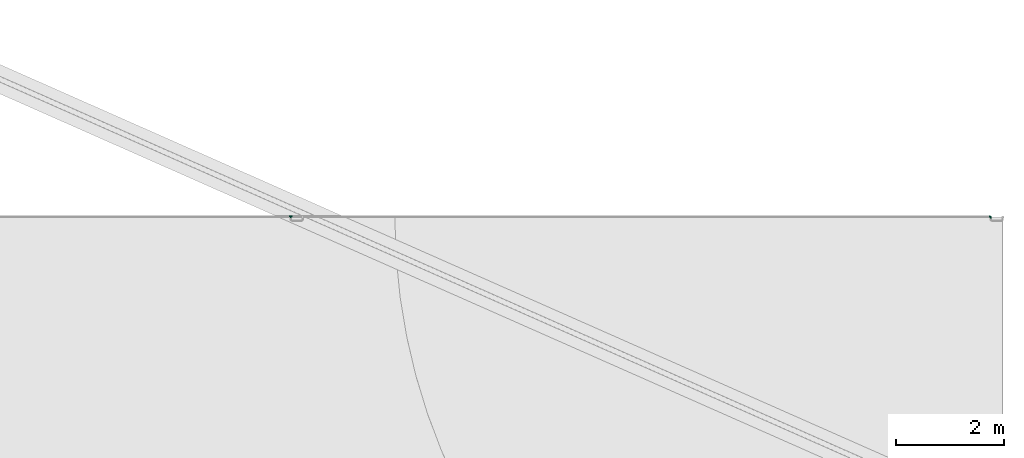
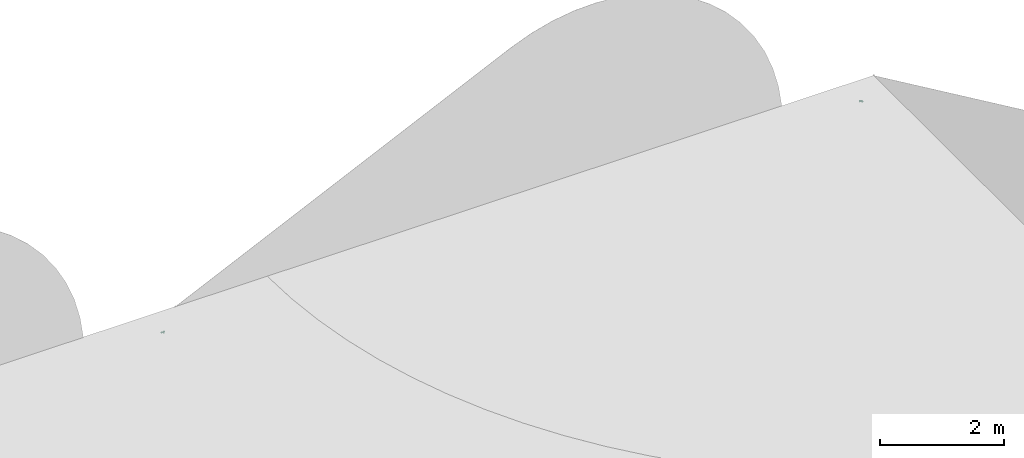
# One storey, part 162 of 166: 2 flow fittings.
"""IFC2X3 building model written with IfcOpenShell, lengths in metres."""

from ifc_helpers import new_model, entity, si_unit, converted_unit, direction, frame, origin, place, context, subcontext, project, spatial, faceted_brep, source, transform, mapped, material, type_object, type_shapes, element, save


model = new_model("IFC2X3")

# Units and contexts
model_context = context("Model", 3, precision=1e-05, world=origin(), true_north=direction((6.123233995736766e-17, 1.0)))
body_context = subcontext(model_context, "Body", "Model", "MODEL_VIEW")
ifc_project = project(units=[si_unit("LENGTHUNIT", "METRE"), converted_unit("PLANEANGLEUNIT", "DEGREE", entity("IfcPlaneAngleMeasure", 0.017453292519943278), si_unit("PLANEANGLEUNIT", "RADIAN"), dimensions=[0, 0, 0, 0, 0, 0, 0]), si_unit("AREAUNIT", "SQUARE_METRE")], contexts=[model_context])

# Site, building, storey
site_placement = place(None, origin())
site = spatial("IfcSite", under=ifc_project, at=site_placement, Name="Default", CompositionType="ELEMENT")
building_placement = place(site_placement, origin())
building = spatial("IfcBuilding", under=site, at=building_placement, Name="CASA DE ACOLHIDA PARA IDOSOS", CompositionType="ELEMENT")
storey_placement = place(building_placement, frame((0.0, 0.0, -1.7499999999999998)))
storey = spatial("IfcBuildingStorey", under=building, at=storey_placement, Name="IMPLANTAÇÃO DRENAGEM", CompositionType="ELEMENT", Elevation=-1.7499999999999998)

# Flow fittings
ifc_material = material(Name="PVC Branco")
pipe_fitting_type_1 = type_object("IfcPipeFittingType", Name="AF_Roscavel_Te_Reducao:Standard", PredefinedType="NOTDEFINED", material=ifc_material)
shared_shape_1 = source(origin(), body_context, "Body", "Brep", [
    faceted_brep([(-0.009400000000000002, 0.014040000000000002, 0.0), (-0.010499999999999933, 0.011611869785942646, -0.0063642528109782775), (-0.010500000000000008, 0.012355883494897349, -0.005006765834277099), (-0.010499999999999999, 0.0150999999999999, 0.0), (-0.009399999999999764, 0.008784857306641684, -0.006794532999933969), (-0.010499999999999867, 0.008123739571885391, -0.012728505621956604), (-0.009949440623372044, -0.009949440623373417, -0.010643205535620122), (-0.009399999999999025, -0.0019155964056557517, -0.012258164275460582), (-0.009399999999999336, -0.003706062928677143, -0.011820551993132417), (-0.009399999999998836, -0.006553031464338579, -0.011124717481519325), (-0.009399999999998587, -0.007976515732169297, -0.010776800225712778), (-0.009399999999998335, -0.009400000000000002, -0.010428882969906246), (-0.010499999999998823, -0.0025360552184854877, -0.011654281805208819), (-0.009399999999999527, 0.003529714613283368, -0.01358906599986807), (-0.010499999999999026, -0.0011881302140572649, -0.01179011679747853), (-0.01049999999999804, -0.010500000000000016, -0.010851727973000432), (-0.009949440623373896, -0.009949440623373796, 0.01064320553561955), (-0.009400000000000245, -0.009400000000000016, 0.010428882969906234), (-0.009400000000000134, -0.00657052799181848, 0.010641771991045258), (-0.009400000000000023, -0.0037410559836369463, 0.010854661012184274), (-0.00940000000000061, -0.0008331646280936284, 0.011073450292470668), (-0.009400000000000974, 0.007733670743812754, 0.011718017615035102), (-0.010500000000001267, 0.009299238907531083, 0.007344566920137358), (-0.010500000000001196, 0.003498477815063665, 0.014689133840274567), (-0.00940000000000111, 0.01088683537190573, 0.00585900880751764), (-0.010500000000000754, -0.002518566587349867, 0.013039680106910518), (-0.0105000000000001, -0.003500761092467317, 0.012770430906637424), (-0.010500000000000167, -0.010500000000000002, 0.01085172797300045), (-0.009399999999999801, 0.0019178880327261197, 0.011280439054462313), (-0.003273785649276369, -0.003273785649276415, 0.013652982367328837), (-0.0071620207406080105, -0.0071620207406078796, 0.011606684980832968), (0.00940000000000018, 0.0019178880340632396, 0.011280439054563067), (0.009400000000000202, 0.007733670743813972, 0.011718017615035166), (0.0, 0.0, 0.014039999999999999), (0.009400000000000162, -0.003741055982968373, 0.010854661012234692), (0.009400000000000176, -0.0008331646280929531, 0.011073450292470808), (0.006450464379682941, -0.006450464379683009, 0.012470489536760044), (0.00833239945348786, -0.008332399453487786, 0.01116785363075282), (0.009400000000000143, -0.009399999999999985, 0.010428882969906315), (0.009400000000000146, -0.00798526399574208, 0.010535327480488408), (0.009400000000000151, -0.006570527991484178, 0.010641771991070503), (0.009400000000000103, 0.01088683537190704, 0.005859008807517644), (0.009400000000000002, 0.014039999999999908, 0.0), (0.009399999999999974, 0.008784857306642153, -0.006794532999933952), (0.009399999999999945, 0.003529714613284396, -0.013589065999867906), (0.0, 0.0, -0.014039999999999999), (-0.006450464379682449, -0.006450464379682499, -0.012470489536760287), (-0.008332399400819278, -0.008332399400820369, -0.011167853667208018), (0.009400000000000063, -0.006553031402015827, -0.011124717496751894), (0.009400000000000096, -0.009399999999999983, -0.010428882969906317), (0.0071620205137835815, -0.0071620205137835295, -0.011606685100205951), (0.0032737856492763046, -0.0032737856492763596, -0.013652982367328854), (0.009400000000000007, -0.0019155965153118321, -0.012258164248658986), (0.009400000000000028, -0.0037060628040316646, -0.01182055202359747), (0.010499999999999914, 0.008123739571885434, 0.012728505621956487), (0.010499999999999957, 0.011611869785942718, 0.006364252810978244), (0.010500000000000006, -0.002536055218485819, 0.01165428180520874), (0.010499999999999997, -0.001188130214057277, 0.011790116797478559), (0.010499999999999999, 0.0151, 0.0), (0.009949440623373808, -0.00994944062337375, 0.010643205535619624), (0.010499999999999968, 0.012355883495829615, 0.005006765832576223), (0.010500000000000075, -0.01049999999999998, 0.010851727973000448), (0.010500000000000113, -0.002518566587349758, -0.013039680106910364), (0.00994944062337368, -0.009949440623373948, -0.010643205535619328), (0.010500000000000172, 0.0034984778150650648, -0.014689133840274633), (0.010500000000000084, 0.009299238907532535, -0.007344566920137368), (0.010500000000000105, -0.0035007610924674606, -0.012770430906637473), (0.010500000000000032, -0.010499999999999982, -0.010851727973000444), (-0.032, -0.007550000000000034, -0.013076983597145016), (-0.032, -0.0125, 0.0), (-0.032, -0.006250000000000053, -0.010825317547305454), (-0.032, -0.011325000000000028, -0.00653849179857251), (-0.032, 0.0062499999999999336, -0.010825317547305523), (-0.032, 0.0, -0.013076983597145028), (-0.032, -0.015100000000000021, 0.0), (-0.032, -0.006250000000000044, 0.010825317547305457), (-0.032, -0.011324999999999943, 0.006538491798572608), (-0.032, -0.00754999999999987, 0.01307698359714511), (-0.032, 0.006249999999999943, 0.010825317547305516), (-0.032, 0.0, 0.013076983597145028), (-0.032, 0.007550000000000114, 0.013076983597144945), (-0.032, 0.012256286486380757, 0.004925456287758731), (-0.032, 0.015099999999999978, 0.0), (-0.032, 0.0125, 0.0), (-0.032, 0.011324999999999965, -0.006538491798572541), (-0.032, 0.0075499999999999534, -0.01307698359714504), (-0.013760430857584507, -0.013760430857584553, 0.006217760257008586), (-0.015099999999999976, -0.015100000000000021, 0.0), (0.032000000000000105, -0.01132500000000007, 0.0065384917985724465), (0.015100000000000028, -0.0151, 0.0), (0.032000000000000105, -0.0151, 0.0), (-0.013760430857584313, -0.013760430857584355, -0.006217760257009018), (0.032000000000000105, -0.011324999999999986, -0.0065384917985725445), (0.032000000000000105, 0.007550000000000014, -0.013076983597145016), (0.032000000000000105, 0.0125, 0.0), (0.032000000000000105, 0.006250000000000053, -0.010825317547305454), (0.032000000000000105, 0.012256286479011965, -0.004925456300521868), (0.032000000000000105, -0.0062499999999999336, -0.010825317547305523), (0.032000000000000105, 0.0, -0.013076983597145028), (0.032000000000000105, 0.0151, 0.0), (0.032000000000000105, 0.006250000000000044, 0.010825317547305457), (0.032000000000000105, 0.011324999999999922, 0.006538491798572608), (0.032000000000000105, 0.00754999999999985, 0.01307698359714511), (0.032000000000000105, -0.006249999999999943, 0.010825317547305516), (0.032000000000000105, 0.0, 0.013076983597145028), (0.032000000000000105, -0.007550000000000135, 0.013076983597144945), (0.032000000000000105, -0.0125, 0.0), (0.032000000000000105, -0.007549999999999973, -0.01307698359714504), (0.013760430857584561, -0.013760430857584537, 0.00621776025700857), (0.013760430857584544, -0.013760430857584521, -0.006217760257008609), (-0.01589999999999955, -0.0125, 0.0), (-0.01589999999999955, -0.006250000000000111, 0.010825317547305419), (-0.01589999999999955, 0.006249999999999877, 0.010825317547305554), (-0.01589999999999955, 0.0125, 0.0), (-0.01589999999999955, 0.006250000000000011, -0.010825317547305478), (-0.01589999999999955, -0.0062499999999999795, -0.010825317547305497), (0.01590000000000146, -0.012499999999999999, 0.0), (0.015900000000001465, -0.006249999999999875, 0.010825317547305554), (0.015900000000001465, 0.006250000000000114, 0.010825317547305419), (0.006250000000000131, -0.031999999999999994, 0.010825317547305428), (-0.006249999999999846, -0.03200000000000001, 0.01082531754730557), (-0.006249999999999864, -0.015900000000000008, 0.010825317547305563), (0.006250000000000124, -0.015900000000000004, 0.010825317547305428), (0.015900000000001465, 0.012500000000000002, 0.0), (0.015900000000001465, 0.006249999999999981, -0.010825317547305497), (0.015900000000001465, -0.006250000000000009, -0.010825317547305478), (-0.0062499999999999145, -0.03200000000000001, -0.010825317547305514), (0.006250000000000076, -0.031999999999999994, -0.010825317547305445), (0.006249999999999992, -0.015900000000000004, -0.01082531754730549), (-0.006249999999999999, -0.015900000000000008, -0.010825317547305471), (0.012500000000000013, -0.0159, 0.0), (-0.012499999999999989, -0.01590000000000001, 0.0), (0.012500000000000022, -0.03199999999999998, 0.0), (-0.01249999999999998, -0.03200000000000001, 0.0), (-0.005668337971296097, -0.00940000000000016, -0.01186229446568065), (9.767713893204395e-07, -0.009400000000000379, -0.014039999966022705), (0.005668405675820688, -0.009399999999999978, 0.011862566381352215), (9.767713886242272e-07, -0.00939999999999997, 0.014039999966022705), (0.0016561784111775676, -0.010500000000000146, 0.015008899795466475), (-0.0025917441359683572, -0.010500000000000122, 0.01355619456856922), (-0.001654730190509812, -0.010499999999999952, -0.015009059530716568), (0.0025918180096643, -0.010500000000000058, -0.013556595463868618), (0.007550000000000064, -0.03199999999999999, -0.013076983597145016), (0.011325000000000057, -0.03199999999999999, -0.00653849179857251), (0.0, -0.032, -0.013076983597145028), (0.015100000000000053, -0.03199999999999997, 0.0), (0.011324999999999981, -0.03199999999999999, 0.006538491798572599), (0.007549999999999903, -0.03199999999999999, 0.01307698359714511), (0.0, -0.032, 0.013076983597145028), (-0.007550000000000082, -0.032000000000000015, 0.013076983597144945), (-0.011325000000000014, -0.03200000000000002, 0.006538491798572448), (-0.015099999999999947, -0.03200000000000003, 0.0), (-0.011324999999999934, -0.03200000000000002, -0.006538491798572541), (-0.0075499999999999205, -0.032000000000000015, -0.01307698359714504)], [[[0, 1, 2, 3]], [[4, 5, 1]], [[6, 7, 8, 9, 10, 11]], [[12, 7, 6]], [[13, 12, 14, 5]], [[13, 7, 12]], [[0, 4, 1]], [[5, 4, 13]], [[6, 15, 12]], [[16, 17, 18, 19, 20]], [[21, 22, 23]], [[3, 24, 0]], [[3, 22, 24]], [[25, 20, 23]], [[22, 21, 24]], [[16, 25, 26, 27]], [[20, 25, 16]], [[23, 20, 28, 21]], [[29, 28, 20, 19, 18, 17, 30]], [[31, 32, 33, 34, 35]], [[33, 28, 29]], [[36, 37, 38, 39, 40, 34]], [[21, 32, 41, 42, 0, 24]], [[32, 21, 33]], [[21, 28, 33]], [[36, 34, 33]], [[43, 44, 45]], [[45, 13, 4]], [[9, 8, 46, 47, 11, 10]], [[43, 4, 0, 42]], [[48, 49, 50, 51, 44, 52, 53]], [[45, 8, 7, 13]], [[46, 8, 45]], [[51, 45, 44]], [[4, 43, 45]], [[32, 54, 55]], [[55, 41, 32]], [[35, 56, 57, 54]], [[42, 41, 58]], [[59, 35, 34, 40, 39, 38]], [[54, 32, 31, 35]], [[41, 55, 60, 58]], [[59, 56, 35]], [[59, 61, 56]], [[52, 62, 63]], [[44, 64, 52]], [[58, 43, 42]], [[58, 65, 43]], [[63, 49, 48, 53, 52]], [[65, 44, 43]], [[63, 62, 66, 67]], [[44, 65, 64]], [[62, 52, 64]], [[68, 69, 70]], [[69, 68, 71]], [[68, 70, 72]], [[72, 73, 68]], [[69, 71, 74]], [[75, 69, 74]], [[75, 74, 76]], [[75, 76, 77]], [[75, 77, 78]], [[78, 77, 79]], [[78, 79, 80]], [[78, 80, 81]], [[78, 81, 82]], [[82, 83, 78]], [[83, 82, 84]], [[83, 84, 85]], [[85, 72, 83]], [[72, 85, 73]], [[22, 80, 23]], [[23, 80, 79]], [[81, 22, 3]], [[77, 27, 26]], [[80, 22, 81]], [[86, 76, 87]], [[3, 82, 81]], [[26, 79, 77]], [[86, 77, 76]], [[74, 87, 76]], [[88, 89, 90]], [[79, 26, 25, 23]], [[86, 27, 77]], [[82, 3, 2]], [[91, 71, 68]], [[87, 71, 91]], [[15, 91, 68]], [[71, 87, 74]], [[90, 89, 92]], [[68, 14, 12, 15]], [[73, 85, 5]], [[5, 85, 84]], [[84, 82, 2]], [[73, 5, 14]], [[14, 68, 73]], [[84, 2, 1, 5]], [[93, 94, 95]], [[94, 93, 96]], [[93, 95, 97]], [[97, 98, 93]], [[94, 96, 99]], [[100, 94, 99]], [[100, 99, 101]], [[100, 101, 102]], [[100, 102, 103]], [[103, 102, 104]], [[103, 104, 105]], [[103, 105, 88]], [[103, 88, 90]], [[90, 106, 103]], [[106, 90, 92]], [[106, 92, 107]], [[107, 97, 106]], [[97, 107, 98]], [[99, 58, 60]], [[108, 88, 105]], [[89, 88, 108]], [[61, 108, 105]], [[105, 57, 56, 61]], [[104, 102, 54]], [[54, 102, 101]], [[101, 99, 60]], [[104, 54, 57]], [[57, 105, 104]], [[101, 60, 55, 54]], [[65, 93, 64]], [[64, 93, 98]], [[96, 65, 58]], [[107, 67, 66]], [[93, 65, 96]], [[109, 92, 89]], [[58, 99, 96]], [[66, 98, 107]], [[109, 107, 92]], [[98, 66, 62, 64]], [[109, 67, 107]], [[110, 111, 112, 113, 114, 115]], [[69, 75, 111, 110]], [[103, 106, 116, 117]], [[75, 78, 112, 111]], [[100, 103, 117, 118]], [[119, 120, 121, 122]], [[78, 83, 113, 112]], [[94, 100, 118, 123]], [[83, 72, 114, 113]], [[95, 94, 123, 124]], [[72, 70, 115, 114]], [[97, 95, 124, 125]], [[126, 127, 128, 129]], [[70, 69, 110, 115]], [[106, 97, 125, 116]], [[123, 118, 117, 116, 125, 124]], [[130, 122, 121, 131, 129, 128]], [[132, 119, 122, 130]], [[120, 133, 131, 121]], [[133, 126, 129, 131]], [[127, 132, 130, 128]], [[46, 45, 51]], [[134, 11, 47, 46, 135]], [[135, 51, 50, 49]], [[51, 135, 46]], [[136, 38, 37, 36, 137]], [[137, 36, 29]], [[137, 29, 30, 17]], [[33, 29, 36]], [[138, 59, 137]], [[16, 139, 137]], [[138, 61, 59]], [[59, 38, 136, 137]], [[17, 16, 137]], [[137, 139, 138]], [[16, 27, 139]], [[140, 6, 135]], [[63, 141, 135]], [[140, 15, 6]], [[6, 11, 134, 135]], [[49, 63, 135]], [[135, 141, 140]], [[63, 67, 141]], [[142, 132, 127]], [[132, 142, 143]], [[142, 127, 126]], [[126, 144, 142]], [[132, 143, 145]], [[119, 132, 145]], [[119, 145, 146]], [[119, 146, 147]], [[119, 147, 120]], [[120, 147, 148]], [[120, 148, 149]], [[120, 149, 150]], [[120, 150, 151]], [[151, 133, 120]], [[133, 151, 152]], [[133, 152, 153]], [[153, 126, 133]], [[126, 153, 144]], [[87, 151, 150]], [[87, 150, 86]], [[149, 86, 150]], [[86, 149, 27]], [[149, 138, 139, 27]], [[145, 89, 146]], [[89, 108, 146]], [[108, 147, 146]], [[138, 149, 148, 147]], [[138, 147, 61]], [[147, 108, 61]], [[89, 145, 143]], [[89, 143, 109]], [[142, 109, 143]], [[109, 142, 67]], [[142, 140, 141, 67]], [[151, 87, 152]], [[87, 91, 152]], [[91, 153, 152]], [[140, 142, 144, 153]], [[140, 153, 15]], [[153, 91, 15]]]),
])
type_shapes(pipe_fitting_type_1, [shared_shape_1])
flow_fitting_1_placement = place(storey_placement, frame((33.009051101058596, 49.25494207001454, -0.19999999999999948), z_axis=(0.0, 0.0, -1.0), x_axis=(-1.0, 0.0, 0.0)))
element("IfcFlowFitting", 1, at=flow_fitting_1_placement, inside=storey, type_object=pipe_fitting_type_1, material=ifc_material, Name="AF_Roscavel_Te_Reducao:Standard", ObjectType="AF_Roscavel_Te_Reducao:Standard", context=body_context, shape_type="MappedRepresentation", body=[
    mapped(shared_shape_1, transform((0.0, 0.0, 0.0), scale=1.0)),
])
pipe_fitting_type_2 = type_object("IfcPipeFittingType", Name="AF_Roscavel _Joelho 45_90:Standard", PredefinedType="NOTDEFINED", material=ifc_material)
shared_shape_2 = source(origin(), body_context, "Body", "Brep", [
    faceted_brep([(-0.01679999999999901, -0.012616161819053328, -0.010587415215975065), (-0.00016499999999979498, -0.01201266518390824, 0.0), (-0.01679999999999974, -0.016469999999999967, 0.0), (0.008619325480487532, 0.003305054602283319, -0.01130283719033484), (-0.0019587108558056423, -0.007478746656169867, -0.011636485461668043), (-0.002997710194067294, 0.004547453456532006, -0.01638652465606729), (0.008606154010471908, 0.003179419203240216, 0.0), (-0.01679999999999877, 0.0028622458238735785, -0.01621938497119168), (-0.01679999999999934, 0.012618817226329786, -0.010584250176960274), (-0.01656665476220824, 0.016566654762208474, 0.0), (-0.0167999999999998, 0.016470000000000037, 0.0), (-0.016799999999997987, -0.004876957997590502, -0.013403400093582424), (0.002858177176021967, 0.016799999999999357, -0.016220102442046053), (0.012616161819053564, 0.016799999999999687, -0.010587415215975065), (-0.01261881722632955, 0.01679999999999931, -0.010584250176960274), (-0.004880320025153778, 0.016799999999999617, -0.013402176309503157), (-0.0164699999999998, 0.016800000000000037, 0.0), (0.016470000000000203, 0.01679999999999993, 0.0), (0.005872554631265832, 0.002004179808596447, 0.012873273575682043), (0.012616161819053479, 0.01679999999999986, 0.010587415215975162), (0.004876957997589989, 0.016800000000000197, 0.013403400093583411), (-0.0028622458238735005, 0.01679999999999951, 0.01621938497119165), (-0.003427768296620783, -0.008647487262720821, 0.011337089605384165), (-0.006437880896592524, 0.004263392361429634, 0.01646129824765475), (-0.016799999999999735, -0.012616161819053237, 0.01058741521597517), (-0.01679999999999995, -0.0028581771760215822, 0.016220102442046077), (-0.01680000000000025, 0.012618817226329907, 0.010584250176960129), (-0.012618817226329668, 0.016799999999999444, 0.01058425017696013), (-0.016800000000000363, 0.004880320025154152, 0.01340217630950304), (-0.0357999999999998, -0.004736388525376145, -0.017676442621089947), (-0.0357999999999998, -0.003235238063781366, -0.012074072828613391), (-0.0357999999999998, 0.0032352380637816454, -0.01207407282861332), (-0.0357999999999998, -0.015848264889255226, -0.00914999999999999), (-0.0357999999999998, 0.004736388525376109, -0.01767644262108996), (-0.0357999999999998, -0.0108253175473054, -0.0062500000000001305), (-0.0357999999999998, -0.012499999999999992, 0.0), (-0.0357999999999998, -0.018299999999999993, 0.0), (-0.0357999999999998, -0.010825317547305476, 0.006249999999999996), (-0.0357999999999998, -0.01584826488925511, 0.009150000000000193), (-0.0357999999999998, -0.003235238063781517, 0.01207407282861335), (-0.0357999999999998, -0.004736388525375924, 0.017676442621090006), (-0.0357999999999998, 0.003235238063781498, 0.012074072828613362), (-0.0357999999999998, 0.004736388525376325, 0.017676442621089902), (-0.0357999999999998, 0.010825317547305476, 0.006250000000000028), (-0.0357999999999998, 0.015848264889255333, 0.009149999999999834), (-0.0357999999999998, 0.01830000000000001, 0.0), (-0.0357999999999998, 0.01250000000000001, 0.0), (-0.0357999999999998, 0.015848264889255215, -0.009150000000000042), (-0.0357999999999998, 0.01082531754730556, -0.006249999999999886), (-0.017899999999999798, 0.01082531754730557, -0.006249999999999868), (-0.017899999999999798, 0.01250000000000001, 0.0), (-0.017899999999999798, 0.0032352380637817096, -0.012074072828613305), (-0.017899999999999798, -0.003235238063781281, -0.012074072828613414), (0.0032352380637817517, 0.03580000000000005, -0.01207407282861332), (-0.00323523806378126, 0.03580000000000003, -0.012074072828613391), (-0.0032352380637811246, 0.017899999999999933, -0.012074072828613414), (0.0032352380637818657, 0.017900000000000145, -0.012074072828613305), (-0.017899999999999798, -0.01082531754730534, -0.006250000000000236), (-0.017899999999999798, -0.012499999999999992, 0.0), (-0.017899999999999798, -0.010825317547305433, 0.006250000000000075), (-0.017899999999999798, -0.003235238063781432, 0.012074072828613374), (-0.017899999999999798, 0.003235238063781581, 0.012074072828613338), (-0.003235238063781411, 0.03580000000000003, 0.01207407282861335), (0.0032352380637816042, 0.03580000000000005, 0.012074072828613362), (0.0032352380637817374, 0.017900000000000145, 0.012074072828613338), (-0.0032352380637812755, 0.017899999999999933, 0.012074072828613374), (-0.017899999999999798, 0.010825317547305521, 0.006249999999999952), (-0.01829999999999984, 0.01830000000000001, 0.0), (-0.018198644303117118, 0.018198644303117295, 0.0019233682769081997), (-0.017900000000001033, 0.01789999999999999, 0.0038052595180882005), (-0.01789999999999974, 0.011924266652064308, 0.013881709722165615), (-0.017899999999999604, 0.001061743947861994, 0.01826917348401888), (-0.01789999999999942, -0.014552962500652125, 0.011095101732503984), (-0.017900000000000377, -0.0067456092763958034, 0.014682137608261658), (-0.017899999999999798, -0.018299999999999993, 0.0), (-0.017899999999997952, -0.014552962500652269, -0.011095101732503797), (-0.01789999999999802, -0.004841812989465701, -0.017647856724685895), (-0.017899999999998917, 0.011924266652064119, -0.013881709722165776), (-0.018198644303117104, 0.018198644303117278, -0.0019233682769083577), (-0.017899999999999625, 0.017899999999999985, -0.0038052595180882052), (-0.0178999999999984, 0.0035412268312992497, -0.01576478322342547), (-0.01729726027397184, 0.017297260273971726, 0.0), (-0.01746011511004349, 0.017460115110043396, -0.0019456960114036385), (-0.017460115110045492, 0.017460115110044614, 0.0019456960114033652), (-0.004736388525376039, 0.035800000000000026, -0.017676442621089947), (-0.01584826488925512, 0.03579999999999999, -0.00914999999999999), (0.004736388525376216, 0.035800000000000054, -0.01767644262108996), (-0.010825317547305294, 0.035800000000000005, -0.0062500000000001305), (-0.012499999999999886, 0.035800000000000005, 0.0), (-0.01829999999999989, 0.035799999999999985, 0.0), (-0.010825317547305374, 0.035800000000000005, 0.006249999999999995), (-0.015848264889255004, 0.03579999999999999, 0.009150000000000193), (-0.004736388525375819, 0.035800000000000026, 0.017676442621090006), (0.004736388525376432, 0.035800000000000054, 0.017676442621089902), (0.010825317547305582, 0.03580000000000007, 0.006250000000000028), (0.01584826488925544, 0.03580000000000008, 0.009149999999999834), (0.018300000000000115, 0.03580000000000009, 0.0), (0.012500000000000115, 0.035800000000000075, 0.0), (0.01584826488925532, 0.03580000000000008, -0.009150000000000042), (0.010825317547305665, 0.03580000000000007, -0.006249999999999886), (0.018300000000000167, 0.01790000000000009, 0.0), (0.014552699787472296, 0.01790000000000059, 0.011095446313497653), (0.004841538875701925, 0.017900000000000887, 0.01764793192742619), (-0.011924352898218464, 0.01790000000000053, 0.013881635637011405), (-0.00354140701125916, 0.017900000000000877, 0.015764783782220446), (-0.011924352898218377, 0.017899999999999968, -0.013881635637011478), (-0.0010619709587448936, 0.017900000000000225, -0.018269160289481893), (0.01455269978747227, 0.017900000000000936, -0.011095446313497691), (0.006745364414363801, 0.017899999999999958, -0.014682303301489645), (0.010825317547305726, 0.01790000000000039, -0.006249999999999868), (0.012500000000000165, 0.017900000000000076, 0.0), (-0.010825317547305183, 0.017899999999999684, -0.006250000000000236), (-0.012499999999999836, 0.01789999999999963, 0.0), (-0.010825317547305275, 0.017899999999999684, 0.006250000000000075), (0.010825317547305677, 0.01790000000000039, 0.006249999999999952)], [[[0, 1, 2]], [[3, 4, 5]], [[4, 3, 6]], [[7, 8, 5]], [[9, 8, 10]], [[4, 0, 11, 7]], [[12, 13, 3]], [[4, 6, 1]], [[6, 3, 13]], [[14, 5, 8]], [[4, 1, 0]], [[5, 14, 15, 12]], [[16, 14, 9]], [[14, 8, 9]], [[12, 3, 5]], [[5, 4, 7]], [[17, 6, 13]], [[18, 19, 20, 21]], [[6, 18, 1]], [[22, 1, 18]], [[23, 18, 21]], [[1, 24, 2]], [[25, 22, 23]], [[22, 24, 1]], [[9, 10, 26]], [[27, 16, 9]], [[26, 23, 27]], [[6, 17, 19]], [[27, 23, 21]], [[22, 25, 24]], [[23, 22, 18]], [[23, 26, 28, 25]], [[18, 6, 19]], [[26, 27, 9]], [[29, 30, 31]], [[30, 29, 32]], [[31, 33, 29]], [[32, 34, 30]], [[32, 35, 34]], [[35, 32, 36]], [[37, 35, 36]], [[37, 36, 38]], [[38, 39, 37]], [[38, 40, 39]], [[39, 40, 41]], [[42, 41, 40]], [[42, 43, 41]], [[43, 42, 44]], [[45, 43, 44]], [[46, 43, 45]], [[47, 46, 45]], [[47, 48, 46]], [[48, 47, 33]], [[33, 31, 48]], [[49, 50, 46, 48]], [[51, 49, 48, 31]], [[31, 30, 52, 51]], [[53, 54, 55, 56]], [[57, 52, 30, 34]], [[58, 57, 34, 35]], [[59, 58, 35, 37]], [[60, 59, 37, 39]], [[39, 41, 61, 60]], [[62, 63, 64, 65]], [[66, 61, 41, 43]], [[50, 66, 43, 46]], [[67, 45, 68]], [[68, 45, 44]], [[44, 69, 68]], [[69, 44, 70]], [[44, 42, 70]], [[71, 42, 40]], [[72, 40, 38]], [[40, 72, 73, 71]], [[74, 72, 38]], [[36, 74, 38]], [[42, 71, 70]], [[74, 36, 32]], [[75, 32, 29]], [[32, 75, 74]], [[75, 29, 76]], [[29, 33, 76]], [[77, 33, 47]], [[78, 47, 45]], [[77, 47, 79]], [[79, 47, 78]], [[45, 67, 78]], [[33, 77, 80, 76]], [[59, 60, 61, 66, 50, 49, 51, 52, 57, 58]], [[81, 10, 8]], [[81, 8, 82]], [[82, 77, 79]], [[77, 82, 8]], [[7, 76, 80, 77]], [[0, 75, 11]], [[75, 0, 2]], [[7, 11, 76]], [[11, 75, 76]], [[74, 75, 2]], [[7, 77, 8]], [[73, 24, 25]], [[2, 24, 72]], [[72, 74, 2]], [[24, 73, 72]], [[71, 25, 28]], [[70, 28, 26]], [[26, 10, 81]], [[26, 81, 83]], [[70, 83, 69]], [[83, 70, 26]], [[25, 71, 73]], [[71, 28, 70]], [[84, 54, 53]], [[54, 84, 85]], [[53, 86, 84]], [[85, 87, 54]], [[85, 88, 87]], [[88, 85, 89]], [[90, 88, 89]], [[90, 89, 91]], [[91, 62, 90]], [[91, 92, 62]], [[62, 92, 63]], [[93, 63, 92]], [[93, 94, 63]], [[94, 93, 95]], [[96, 94, 95]], [[97, 94, 96]], [[98, 97, 96]], [[98, 99, 97]], [[99, 98, 86]], [[86, 53, 99]], [[100, 96, 95]], [[101, 95, 93]], [[95, 101, 100]], [[101, 93, 102]], [[93, 92, 102]], [[103, 92, 91]], [[68, 91, 89]], [[103, 91, 69]], [[69, 91, 68]], [[89, 67, 68]], [[92, 103, 104, 102]], [[67, 89, 78]], [[78, 89, 85]], [[85, 79, 78]], [[79, 85, 105]], [[85, 84, 105]], [[106, 84, 86]], [[107, 86, 98]], [[86, 107, 108, 106]], [[100, 107, 98]], [[96, 100, 98]], [[84, 106, 105]], [[109, 110, 97, 99]], [[56, 109, 99, 53]], [[111, 55, 54, 87]], [[112, 111, 87, 88]], [[113, 112, 88, 90]], [[65, 113, 90, 62]], [[114, 64, 63, 94]], [[110, 114, 94, 97]], [[113, 65, 64, 114, 110, 109, 56, 55, 111, 112]], [[108, 13, 12]], [[17, 13, 107]], [[107, 100, 17]], [[13, 108, 107]], [[106, 12, 15]], [[105, 15, 14]], [[14, 16, 81]], [[14, 81, 82]], [[105, 82, 79]], [[82, 105, 14]], [[12, 106, 108]], [[106, 15, 105]], [[81, 16, 27]], [[81, 27, 83]], [[83, 103, 69]], [[103, 83, 27]], [[21, 102, 104, 103]], [[19, 101, 20]], [[101, 19, 17]], [[21, 20, 102]], [[20, 101, 102]], [[100, 101, 17]], [[21, 103, 27]]]),
])
type_shapes(pipe_fitting_type_2, [shared_shape_2])
flow_fitting_2_placement = place(storey_placement, frame((46.008951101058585, 49.25494207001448, -0.19999999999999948), z_axis=(0.0, 0.0, 1.0), x_axis=(0.0, 1.0, 0.0)))
element("IfcFlowFitting", 2, at=flow_fitting_2_placement, inside=storey, type_object=pipe_fitting_type_2, material=ifc_material, Name="AF_Roscavel _Joelho 45_90:Standard", ObjectType="AF_Roscavel _Joelho 45_90:Standard", context=body_context, shape_type="MappedRepresentation", body=[
    mapped(shared_shape_2, transform((0.0, 0.0, 0.0), scale=1.0)),
])

save(model, "model.ifc")
